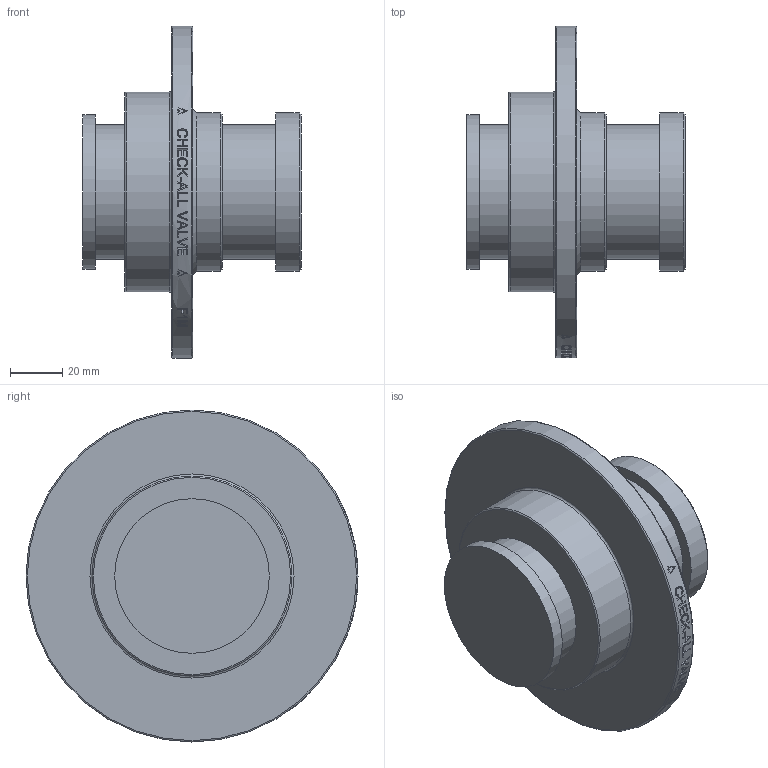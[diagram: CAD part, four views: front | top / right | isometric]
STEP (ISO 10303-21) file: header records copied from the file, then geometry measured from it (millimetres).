
FILE_DESCRIPTION( ( 'Unknown' ), '1' );
FILE_NAME( 'Y:/ENGR/3D Solid Edge Models/F1/F1 STEP/F1M.stp', 'Unknown', ( 'Unknown' ), ( 'Unknown' ), 'PSStep 14.0', 'Unknown', ' ' );
FILE_SCHEMA( ( 'AUTOMOTIVE_DESIGN { 1 0 10303 214 1 1 1 1 }' ) );
Length unit declared in the file: millimetre
Products named in the file (1): 1
Bounding box: 83.44 x 127 x 127 mm (x, y, z)
Volume: 323735 mm3; surface area: 45651.5 mm2
Topology: 1 solids, 1 shells, 217 faces, 551 edges, 365 vertices
Faces by surface type: plane 133, bspline 47, cylinder 30, torus 4, cone 3
Full cylindrical faces by diameter (mm): 51.435 x2, 59.183 x1, 60.452 x1, 60.475 x1, 76.479 x1, 127.001 x1
Entity records: 9821 total; most frequent: CARTESIAN_POINT 4022, ORIENTED_EDGE 1074, EDGE_CURVE 537, B_SPLINE_CURVE_WITH_KNOTS 516, DIRECTION 384, VERTEX_POINT 365, EDGE_LOOP 260, FACE_OUTER_BOUND 228
